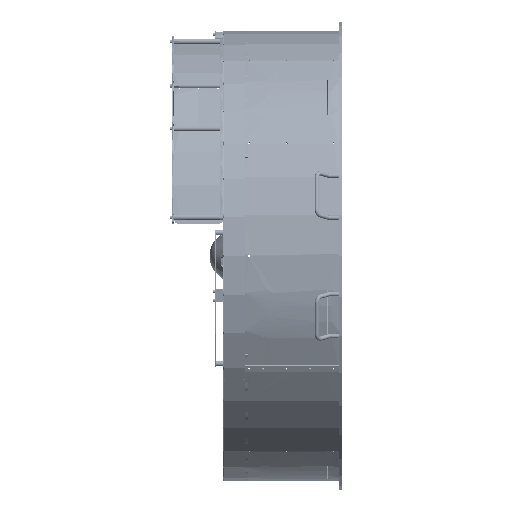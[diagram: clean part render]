
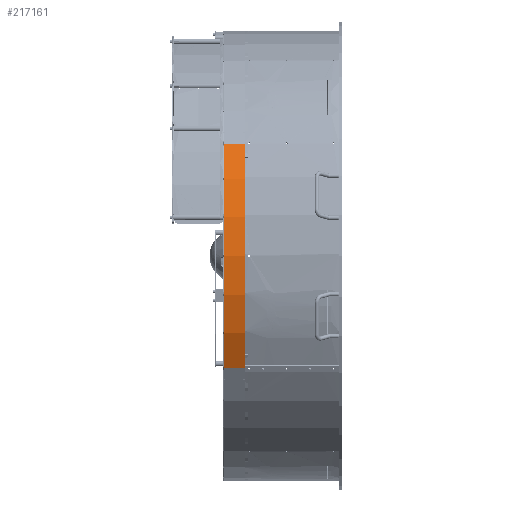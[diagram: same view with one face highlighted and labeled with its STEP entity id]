
A CAD part, left-side view. The second image highlights one B-rep face of the part: STEP entity #217161.
In plain terms, the highlighted cylindrical face has radius 620 mm (diameter 1240 mm), a partial arc.
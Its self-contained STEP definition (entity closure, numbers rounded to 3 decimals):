
#3536 = CARTESIAN_POINT ( 'NONE',  ( 0., 0., 59. ) ) ;
#38768 = VERTEX_POINT ( 'NONE', #361405 ) ;
#53696 = DIRECTION ( 'NONE',  ( 0., 0., -1. ) ) ;
#58330 = AXIS2_PLACEMENT_3D ( 'NONE', #213518, #253877, #87263 ) ;
#67096 = CARTESIAN_POINT ( 'NONE',  ( 620., 0., 1. ) ) ;
#70791 = EDGE_CURVE ( 'NONE', #519718, #202863, #120455, .T. ) ;
#87263 = DIRECTION ( 'NONE',  ( 1., 0., 0. ) ) ;
#120455 = LINE ( 'NONE', #209051, #167187 ) ;
#126393 = DIRECTION ( 'NONE',  ( -1., 0., 0. ) ) ;
#167187 = VECTOR ( 'NONE', #456183, 1000. ) ;
#185287 = CARTESIAN_POINT ( 'NONE',  ( 310., -536.936, 60. ) ) ;
#201298 = CARTESIAN_POINT ( 'NONE',  ( 620., 0., 59. ) ) ;
#202863 = VERTEX_POINT ( 'NONE', #67096 ) ;
#209051 = CARTESIAN_POINT ( 'NONE',  ( 620., 0., 60. ) ) ;
#212018 = EDGE_CURVE ( 'NONE', #519718, #38768, #455173, .T. ) ;
#212355 = FACE_OUTER_BOUND ( 'NONE', #257864, .T. ) ;
#213518 = CARTESIAN_POINT ( 'NONE',  ( 0., 0., 1. ) ) ;
#217161 = ADVANCED_FACE ( 'NONE', ( #212355 ), #421857, .T. ) ;
#222948 = DIRECTION ( 'NONE',  ( 0., 0., -1. ) ) ;
#223515 = AXIS2_PLACEMENT_3D ( 'NONE', #3536, #441722, #361110 ) ;
#253877 = DIRECTION ( 'NONE',  ( 0., 0., 1. ) ) ;
#257864 = EDGE_LOOP ( 'NONE', ( #348574, #370491, #462771, #530212 ) ) ;
#267951 = EDGE_CURVE ( 'NONE', #38768, #456202, #424485, .T. ) ;
#310587 = AXIS2_PLACEMENT_3D ( 'NONE', #497151, #53696, #126393 ) ;
#343811 = VECTOR ( 'NONE', #222948, 1000. ) ;
#348574 = ORIENTED_EDGE ( 'NONE', *, *, #70791, .F. ) ;
#361110 = DIRECTION ( 'NONE',  ( 1., 0., 0. ) ) ;
#361405 = CARTESIAN_POINT ( 'NONE',  ( 310., -536.936, 59. ) ) ;
#362249 = CARTESIAN_POINT ( 'NONE',  ( 310., -536.936, 1. ) ) ;
#370491 = ORIENTED_EDGE ( 'NONE', *, *, #212018, .T. ) ;
#421857 = CYLINDRICAL_SURFACE ( 'NONE', #310587, 620. ) ;
#424485 = LINE ( 'NONE', #185287, #343811 ) ;
#426673 = EDGE_CURVE ( 'NONE', #456202, #202863, #461444, .T. ) ;
#441722 = DIRECTION ( 'NONE',  ( 0., 0., -1. ) ) ;
#455173 = CIRCLE ( 'NONE', #223515, 620. ) ;
#456183 = DIRECTION ( 'NONE',  ( 0., 0., -1. ) ) ;
#456202 = VERTEX_POINT ( 'NONE', #362249 ) ;
#461444 = CIRCLE ( 'NONE', #58330, 620. ) ;
#462771 = ORIENTED_EDGE ( 'NONE', *, *, #267951, .T. ) ;
#497151 = CARTESIAN_POINT ( 'NONE',  ( 0., 0., 60. ) ) ;
#519718 = VERTEX_POINT ( 'NONE', #201298 ) ;
#530212 = ORIENTED_EDGE ( 'NONE', *, *, #426673, .T. ) ;
